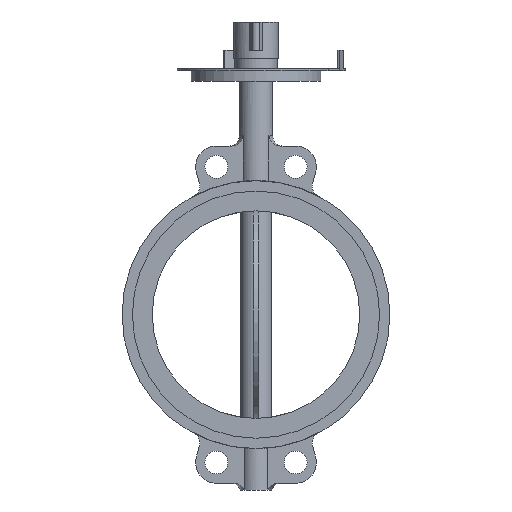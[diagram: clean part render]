
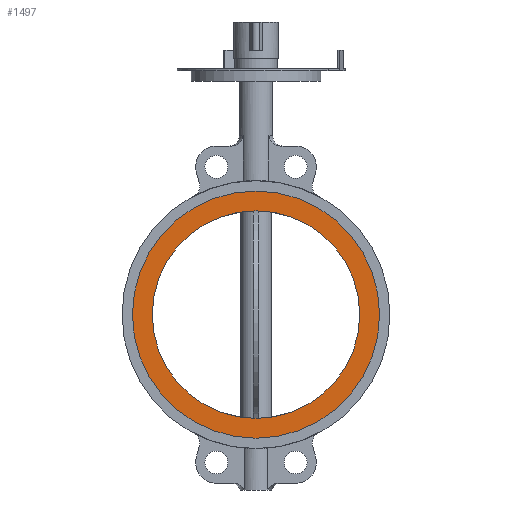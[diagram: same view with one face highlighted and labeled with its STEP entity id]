
A CAD part, left-side view. The second image highlights one B-rep face of the part: STEP entity #1497.
In plain terms, the highlighted planar face has unit normal (-1, 0, 0).
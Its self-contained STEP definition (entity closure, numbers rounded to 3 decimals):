
#1497=ADVANCED_FACE('',(#3035,#3037),#3039,.F.);
#3035=FACE_BOUND('',#3036,.T.);
#3036=EDGE_LOOP('',(#4160));
#3037=FACE_BOUND('',#3038,.T.);
#3038=EDGE_LOOP('',(#4161));
#3039=PLANE('',#3040);
#3040=AXIS2_PLACEMENT_3D('',#3041,#3042,#3043);
#3041=CARTESIAN_POINT('',(-30.,0.,0.));
#3042=DIRECTION('',(1.,0.,0.));
#3043=DIRECTION('',(0.,1.,0.));
#4160=ORIENTED_EDGE('',*,*,#4733,.T.);
#4161=ORIENTED_EDGE('',*,*,#4790,.T.);
#4733=EDGE_CURVE('',#5530,#5530,#5531,.F.);
#4790=EDGE_CURVE('',#5616,#5616,#5617,.T.);
#5530=VERTEX_POINT('',#8102);
#5531=CIRCLE('',#8103,119.1);
#5616=VERTEX_POINT('',#8317);
#5617=CIRCLE('',#8318,100.);
#8102=CARTESIAN_POINT('',(-30.,119.1,0.));
#8103=AXIS2_PLACEMENT_3D('',#8104,#8105,#8106);
#8104=CARTESIAN_POINT('',(-30.,0.,0.));
#8105=DIRECTION('',(1.,0.,0.));
#8106=DIRECTION('',(0.,1.,0.));
#8317=CARTESIAN_POINT('',(-30.,100.,0.));
#8318=AXIS2_PLACEMENT_3D('',#8319,#8320,#8321);
#8319=CARTESIAN_POINT('',(-30.,0.,0.));
#8320=DIRECTION('',(1.,0.,0.));
#8321=DIRECTION('',(0.,1.,0.));
